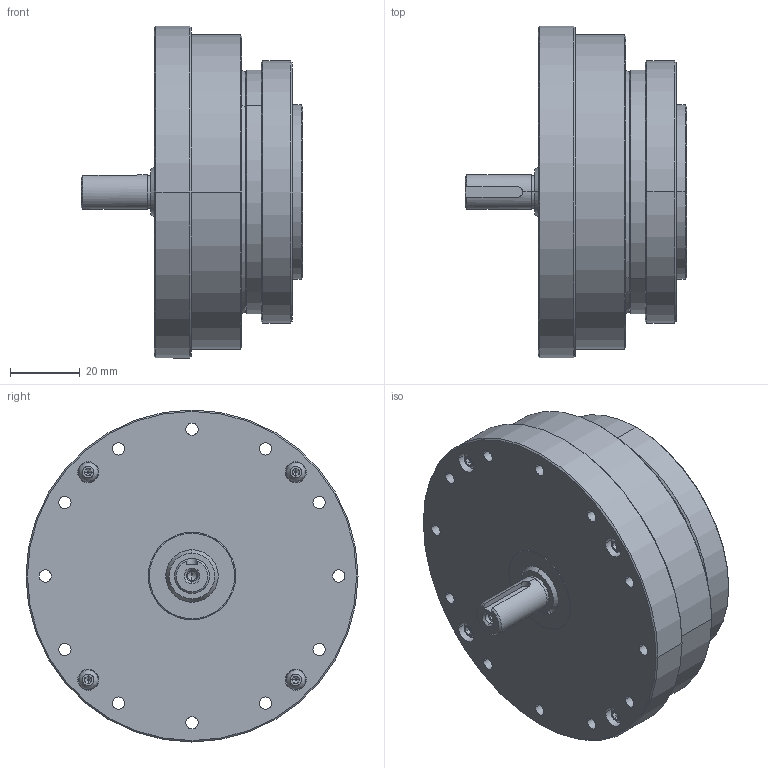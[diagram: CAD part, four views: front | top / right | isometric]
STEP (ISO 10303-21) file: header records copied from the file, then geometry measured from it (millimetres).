
FILE_DESCRIPTION (( 'STEP AP203' ), '1' );
FILE_NAME ('LHS-20-XXX-C-IV.step', '2025-01-07T06:18:20', ( '' ), ( '' ), 'SwSTEP 2.0', 'SolidWorks 2023', '' );
FILE_SCHEMA (( 'CONFIG_CONTROL_DESIGN' ));
Length unit declared in the file: metre
Products named in the file (1): LHS-20-XXX-C-IV
Bounding box: 63.5 x 95 x 95 mm (x, y, z)
Volume: 171700.3 mm3; surface area: 126450.9 mm2
Topology: 60 solids, 60 shells, 1671 faces, 4234 edges, 2577 vertices
Faces by surface type: cylinder 609, plane 479, bspline 333, cone 250
Entity records: 58989 total; most frequent: CARTESIAN_POINT 20104, ORIENTED_EDGE 8116, DIRECTION 8092, EDGE_CURVE 4058, AXIS2_PLACEMENT_3D 3339, VERTEX_POINT 2577, EDGE_LOOP 2047, CIRCLE 2000
